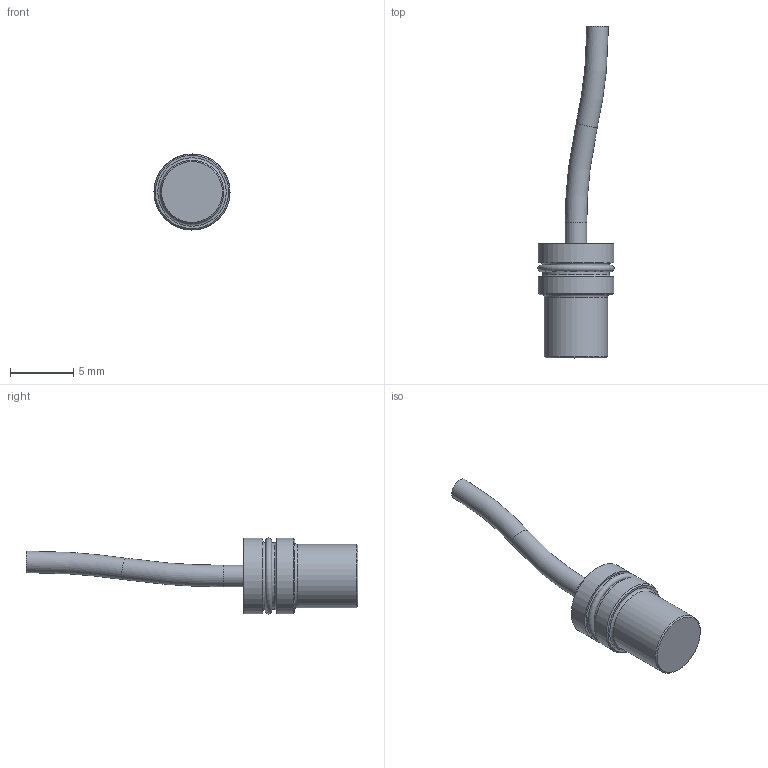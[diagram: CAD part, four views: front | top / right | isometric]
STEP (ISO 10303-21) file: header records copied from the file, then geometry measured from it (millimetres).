
FILE_DESCRIPTION( ( 'Unknown' ), '1' );
FILE_NAME( 'N:/Engineering/CAD/Wirbelstrom/Wirbelstromsensoren/CM05/CM05.stp', 'Unknown', ( 'Unknown' ), ( 'Unknown' ), 'PSStep 17.0.49', 'Unknown', ' ' );
FILE_SCHEMA( ( 'AUTOMOTIVE_DESIGN { 1 0 10303 214 1 1 1 1 }' ) );
Length unit declared in the file: millimetre
Products named in the file (4): 1; 2; 3; 4
Bounding box: 6 x 26.17 x 6 mm (x, y, z)
Surface area: 349.6 mm2 (no closed solid volume)
Topology: 0 solids, 22 shells, 22 faces, 58 edges, 44 vertices
Faces by surface type: plane 8, torus 6, cylinder 6, cone 2
Full cylindrical faces by diameter (mm): 0.1 x1, 1.7 x1, 5 x1, 5.25 x1, 5.98 x2
Entity records: 840 total; most frequent: DIRECTION 136, CARTESIAN_POINT 111, AXIS2_PLACEMENT_3D 68, FACE_BOUND 43, VERTEX_POINT 43, EDGE_LOOP 42, ORIENTED_EDGE 42, EDGE_CURVE 42
